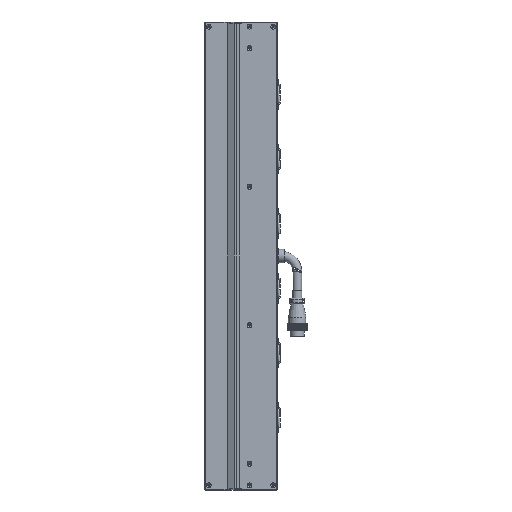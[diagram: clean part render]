
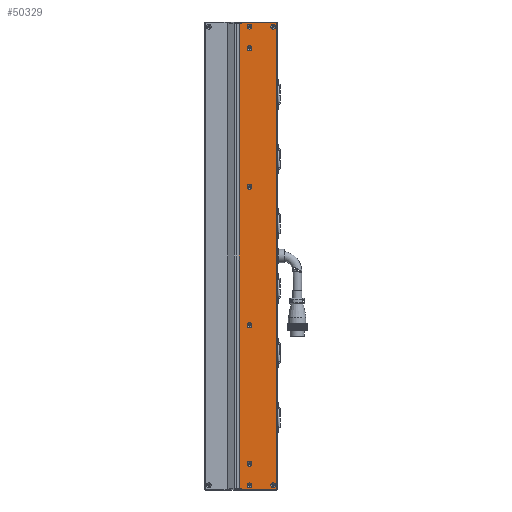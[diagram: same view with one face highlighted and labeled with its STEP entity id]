
A CAD part, left-side view. The second image highlights one B-rep face of the part: STEP entity #50329.
In plain terms, the highlighted planar face has unit normal (-1, 0, 0).
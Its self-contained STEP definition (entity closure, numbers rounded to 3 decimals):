
#1027 = CIRCLE ( 'NONE', #42815, 3.15 ) ;
#1205 = CARTESIAN_POINT ( 'NONE',  ( -24.998, -26.5, 303.5 ) ) ;
#1463 = FACE_BOUND ( 'NONE', #22380, .T. ) ;
#3060 = EDGE_LOOP ( 'NONE', ( #45778, #73619, #49663, #102590, #35003, #85505, #35868, #44548 ) ) ;
#5065 = CARTESIAN_POINT ( 'NONE',  ( -24.998, -36.5, -90. ) ) ;
#5074 = CARTESIAN_POINT ( 'NONE',  ( -24.998, -36.5, -266.85 ) ) ;
#5963 = CARTESIAN_POINT ( 'NONE',  ( -24.998, -72.5, 302. ) ) ;
#6555 = LINE ( 'NONE', #46731, #87056 ) ;
#8319 = AXIS2_PLACEMENT_3D ( 'NONE', #80034, #88683, #88285 ) ;
#9044 = DIRECTION ( 'NONE',  ( 0., 0., 1. ) ) ;
#9761 = AXIS2_PLACEMENT_3D ( 'NONE', #38586, #29858, #110716 ) ;
#11011 = CARTESIAN_POINT ( 'NONE',  ( -24.998, -23.25, -302. ) ) ;
#13403 = DIRECTION ( 'NONE',  ( 0., 0., 1. ) ) ;
#14884 = VERTEX_POINT ( 'NONE', #113136 ) ;
#18582 = CARTESIAN_POINT ( 'NONE',  ( -24.998, -72., 303.5 ) ) ;
#18851 = CIRCLE ( 'NONE', #106423, 3.15 ) ;
#20153 = ORIENTED_EDGE ( 'NONE', *, *, #94989, .F. ) ;
#20171 = EDGE_CURVE ( 'NONE', #38527, #27929, #71046, .T. ) ;
#21083 = EDGE_CURVE ( 'NONE', #56127, #56127, #93515, .T. ) ;
#21427 = EDGE_CURVE ( 'NONE', #88805, #24781, #38474, .T. ) ;
#22162 = EDGE_LOOP ( 'NONE', ( #65423 ) ) ;
#22380 = EDGE_LOOP ( 'NONE', ( #53887 ) ) ;
#23442 = VERTEX_POINT ( 'NONE', #53473 ) ;
#24014 = FACE_BOUND ( 'NONE', #22162, .T. ) ;
#24148 = DIRECTION ( 'NONE',  ( 0., 0., -1. ) ) ;
#24781 = VERTEX_POINT ( 'NONE', #18582 ) ;
#27724 = VECTOR ( 'NONE', #58208, 1000. ) ;
#27929 = VERTEX_POINT ( 'NONE', #82110 ) ;
#28453 = VERTEX_POINT ( 'NONE', #11011 ) ;
#29309 = DIRECTION ( 'NONE',  ( 0., 0., 1. ) ) ;
#29858 = DIRECTION ( 'NONE',  ( -1., 0., 0. ) ) ;
#30158 = EDGE_LOOP ( 'NONE', ( #35262 ) ) ;
#30403 = DIRECTION ( 'NONE',  ( 0., 0., 1. ) ) ;
#31164 = CARTESIAN_POINT ( 'NONE',  ( -24.998, -36.5, -270. ) ) ;
#32432 = CARTESIAN_POINT ( 'NONE',  ( -24.998, -36.5, -298. ) ) ;
#32555 = FACE_BOUND ( 'NONE', #93186, .T. ) ;
#32910 = VERTEX_POINT ( 'NONE', #74997 ) ;
#34421 = CARTESIAN_POINT ( 'NONE',  ( -24.998, -72.5, -302. ) ) ;
#34618 = EDGE_CURVE ( 'NONE', #115455, #115455, #18851, .T. ) ;
#35003 = ORIENTED_EDGE ( 'NONE', *, *, #52429, .T. ) ;
#35112 = CARTESIAN_POINT ( 'NONE',  ( -24.998, -26.5, -295. ) ) ;
#35262 = ORIENTED_EDGE ( 'NONE', *, *, #112001, .F. ) ;
#35361 = FACE_BOUND ( 'NONE', #67079, .T. ) ;
#35868 = ORIENTED_EDGE ( 'NONE', *, *, #20171, .F. ) ;
#35923 = EDGE_CURVE ( 'NONE', #32910, #23442, #96287, .T. ) ;
#38474 = LINE ( 'NONE', #72607, #69499 ) ;
#38527 = VERTEX_POINT ( 'NONE', #60273 ) ;
#38586 = CARTESIAN_POINT ( 'NONE',  ( -24.998, -67.5, 298. ) ) ;
#40244 = DIRECTION ( 'NONE',  ( -1., 0., 0. ) ) ;
#40310 = VERTEX_POINT ( 'NONE', #104405 ) ;
#40327 = ORIENTED_EDGE ( 'NONE', *, *, #86850, .F. ) ;
#40566 = ORIENTED_EDGE ( 'NONE', *, *, #79790, .F. ) ;
#41506 = CARTESIAN_POINT ( 'NONE',  ( -24.998, -36.5, 298. ) ) ;
#42815 = AXIS2_PLACEMENT_3D ( 'NONE', #84388, #48231, #30403 ) ;
#44548 = ORIENTED_EDGE ( 'NONE', *, *, #99219, .F. ) ;
#44609 = ORIENTED_EDGE ( 'NONE', *, *, #63802, .F. ) ;
#45250 = AXIS2_PLACEMENT_3D ( 'NONE', #57557, #85861, #111208 ) ;
#45778 = ORIENTED_EDGE ( 'NONE', *, *, #109149, .T. ) ;
#46731 = CARTESIAN_POINT ( 'NONE',  ( -24.998, -23.25, -302. ) ) ;
#47092 = VECTOR ( 'NONE', #104370, 1000. ) ;
#47833 = LINE ( 'NONE', #34421, #92903 ) ;
#48231 = DIRECTION ( 'NONE',  ( -1., 0., 0. ) ) ;
#48847 = VERTEX_POINT ( 'NONE', #74455 ) ;
#49361 = DIRECTION ( 'NONE',  ( 0., 0., 1. ) ) ;
#49663 = ORIENTED_EDGE ( 'NONE', *, *, #71545, .T. ) ;
#50200 = DIRECTION ( 'NONE',  ( -1., 0., 0. ) ) ;
#50329 = ADVANCED_FACE ( 'NONE', ( #97461, #32555, #24014, #1463, #91791, #65096, #35361, #117220, #105933 ), #86456, .F. ) ;
#50355 = CARTESIAN_POINT ( 'NONE',  ( -24.998, -72.5, 302. ) ) ;
#50984 = DIRECTION ( 'NONE',  ( 0., 0., 1. ) ) ;
#51726 = VERTEX_POINT ( 'NONE', #57114 ) ;
#52377 = AXIS2_PLACEMENT_3D ( 'NONE', #31164, #40244, #49361 ) ;
#52429 = EDGE_CURVE ( 'NONE', #24781, #79692, #70610, .T. ) ;
#53473 = CARTESIAN_POINT ( 'NONE',  ( -24.998, -26.5, -303.5 ) ) ;
#53887 = ORIENTED_EDGE ( 'NONE', *, *, #71454, .F. ) ;
#54315 = AXIS2_PLACEMENT_3D ( 'NONE', #5065, #68318, #13403 ) ;
#54781 = VECTOR ( 'NONE', #97775, 1000. ) ;
#55849 = CARTESIAN_POINT ( 'NONE',  ( -24.998, -67.5, 301.15 ) ) ;
#56127 = VERTEX_POINT ( 'NONE', #5074 ) ;
#57114 = CARTESIAN_POINT ( 'NONE',  ( -24.998, -36.5, 301.15 ) ) ;
#57557 = CARTESIAN_POINT ( 'NONE',  ( -24.998, -36.5, 270. ) ) ;
#58208 = DIRECTION ( 'NONE',  ( 0., 0., -1. ) ) ;
#58650 = VERTEX_POINT ( 'NONE', #78720 ) ;
#60273 = CARTESIAN_POINT ( 'NONE',  ( -24.998, -23.25, 302. ) ) ;
#62097 = ORIENTED_EDGE ( 'NONE', *, *, #34618, .F. ) ;
#63324 = EDGE_LOOP ( 'NONE', ( #20153 ) ) ;
#63424 = CIRCLE ( 'NONE', #105950, 3.15 ) ;
#63802 = EDGE_CURVE ( 'NONE', #51726, #51726, #63424, .T. ) ;
#65096 = FACE_BOUND ( 'NONE', #63324, .T. ) ;
#65423 = ORIENTED_EDGE ( 'NONE', *, *, #21083, .F. ) ;
#67079 = EDGE_LOOP ( 'NONE', ( #40566 ) ) ;
#68318 = DIRECTION ( 'NONE',  ( -1., 0., 0. ) ) ;
#68630 = LINE ( 'NONE', #103539, #27724 ) ;
#69145 = DIRECTION ( 'NONE',  ( -1., 0., 0. ) ) ;
#69289 = EDGE_LOOP ( 'NONE', ( #62097 ) ) ;
#69499 = VECTOR ( 'NONE', #9044, 1000. ) ;
#70610 = LINE ( 'NONE', #105142, #104425 ) ;
#71046 = LINE ( 'NONE', #50355, #47092 ) ;
#71454 = EDGE_CURVE ( 'NONE', #48847, #48847, #88537, .T. ) ;
#71545 = EDGE_CURVE ( 'NONE', #23442, #88805, #81542, .T. ) ;
#72326 = VECTOR ( 'NONE', #90253, 1000. ) ;
#72607 = CARTESIAN_POINT ( 'NONE',  ( -24.998, -72., 302. ) ) ;
#73333 = EDGE_CURVE ( 'NONE', #79692, #27929, #68630, .T. ) ;
#73619 = ORIENTED_EDGE ( 'NONE', *, *, #35923, .T. ) ;
#74455 = CARTESIAN_POINT ( 'NONE',  ( -24.998, -36.5, -86.85 ) ) ;
#74997 = CARTESIAN_POINT ( 'NONE',  ( -24.998, -26.5, -302. ) ) ;
#76797 = DIRECTION ( 'NONE',  ( 0., 1., 0. ) ) ;
#77772 = DIRECTION ( 'NONE',  ( 0., 0., 1. ) ) ;
#78587 = DIRECTION ( 'NONE',  ( 0., -1., 0. ) ) ;
#78720 = CARTESIAN_POINT ( 'NONE',  ( -24.998, -36.5, 273.15 ) ) ;
#79692 = VERTEX_POINT ( 'NONE', #1205 ) ;
#79790 = EDGE_CURVE ( 'NONE', #14884, #14884, #1027, .T. ) ;
#80034 = CARTESIAN_POINT ( 'NONE',  ( -24.998, -36.5, 90. ) ) ;
#81542 = LINE ( 'NONE', #113257, #54781 ) ;
#82110 = CARTESIAN_POINT ( 'NONE',  ( -24.998, -26.5, 302. ) ) ;
#84388 = CARTESIAN_POINT ( 'NONE',  ( -24.998, -67.5, -298. ) ) ;
#85413 = EDGE_LOOP ( 'NONE', ( #40327 ) ) ;
#85505 = ORIENTED_EDGE ( 'NONE', *, *, #73333, .T. ) ;
#85861 = DIRECTION ( 'NONE',  ( -1., 0., 0. ) ) ;
#86456 = PLANE ( 'NONE',  #100615 ) ;
#86850 = EDGE_CURVE ( 'NONE', #40310, #40310, #97171, .T. ) ;
#87056 = VECTOR ( 'NONE', #29309, 1000. ) ;
#88285 = DIRECTION ( 'NONE',  ( 0., 0., 1. ) ) ;
#88537 = CIRCLE ( 'NONE', #54315, 3.15 ) ;
#88683 = DIRECTION ( 'NONE',  ( -1., 0., 0. ) ) ;
#88805 = VERTEX_POINT ( 'NONE', #116437 ) ;
#89703 = CIRCLE ( 'NONE', #9761, 3.15 ) ;
#90253 = DIRECTION ( 'NONE',  ( 0., 0., -1. ) ) ;
#91791 = FACE_BOUND ( 'NONE', #85413, .T. ) ;
#92076 = CIRCLE ( 'NONE', #45250, 3.15 ) ;
#92903 = VECTOR ( 'NONE', #78587, 1000. ) ;
#93186 = EDGE_LOOP ( 'NONE', ( #44609 ) ) ;
#93515 = CIRCLE ( 'NONE', #52377, 3.15 ) ;
#93785 = VERTEX_POINT ( 'NONE', #55849 ) ;
#94989 = EDGE_CURVE ( 'NONE', #58650, #58650, #92076, .T. ) ;
#95927 = DIRECTION ( 'NONE',  ( 1., 0., 0. ) ) ;
#96287 = LINE ( 'NONE', #35112, #72326 ) ;
#97171 = CIRCLE ( 'NONE', #8319, 3.15 ) ;
#97461 = FACE_BOUND ( 'NONE', #30158, .T. ) ;
#97775 = DIRECTION ( 'NONE',  ( 0., -1., 0. ) ) ;
#99219 = EDGE_CURVE ( 'NONE', #28453, #38527, #6555, .T. ) ;
#100615 = AXIS2_PLACEMENT_3D ( 'NONE', #5963, #95927, #24148 ) ;
#102590 = ORIENTED_EDGE ( 'NONE', *, *, #21427, .T. ) ;
#103539 = CARTESIAN_POINT ( 'NONE',  ( -24.998, -26.5, 295. ) ) ;
#104370 = DIRECTION ( 'NONE',  ( 0., -1., 0. ) ) ;
#104405 = CARTESIAN_POINT ( 'NONE',  ( -24.998, -36.5, 93.15 ) ) ;
#104425 = VECTOR ( 'NONE', #76797, 1000. ) ;
#105142 = CARTESIAN_POINT ( 'NONE',  ( -24.998, -72.5, 303.5 ) ) ;
#105933 = FACE_OUTER_BOUND ( 'NONE', #3060, .T. ) ;
#105950 = AXIS2_PLACEMENT_3D ( 'NONE', #41506, #69145, #50984 ) ;
#106423 = AXIS2_PLACEMENT_3D ( 'NONE', #32432, #50200, #77772 ) ;
#106826 = CARTESIAN_POINT ( 'NONE',  ( -24.998, -36.5, -294.85 ) ) ;
#109149 = EDGE_CURVE ( 'NONE', #28453, #32910, #47833, .T. ) ;
#110716 = DIRECTION ( 'NONE',  ( 0., 0., 1. ) ) ;
#111208 = DIRECTION ( 'NONE',  ( 0., 0., 1. ) ) ;
#112001 = EDGE_CURVE ( 'NONE', #93785, #93785, #89703, .T. ) ;
#113136 = CARTESIAN_POINT ( 'NONE',  ( -24.998, -67.5, -294.85 ) ) ;
#113257 = CARTESIAN_POINT ( 'NONE',  ( -24.998, -72.5, -303.5 ) ) ;
#115455 = VERTEX_POINT ( 'NONE', #106826 ) ;
#116437 = CARTESIAN_POINT ( 'NONE',  ( -24.998, -72., -303.5 ) ) ;
#117220 = FACE_BOUND ( 'NONE', #69289, .T. ) ;
